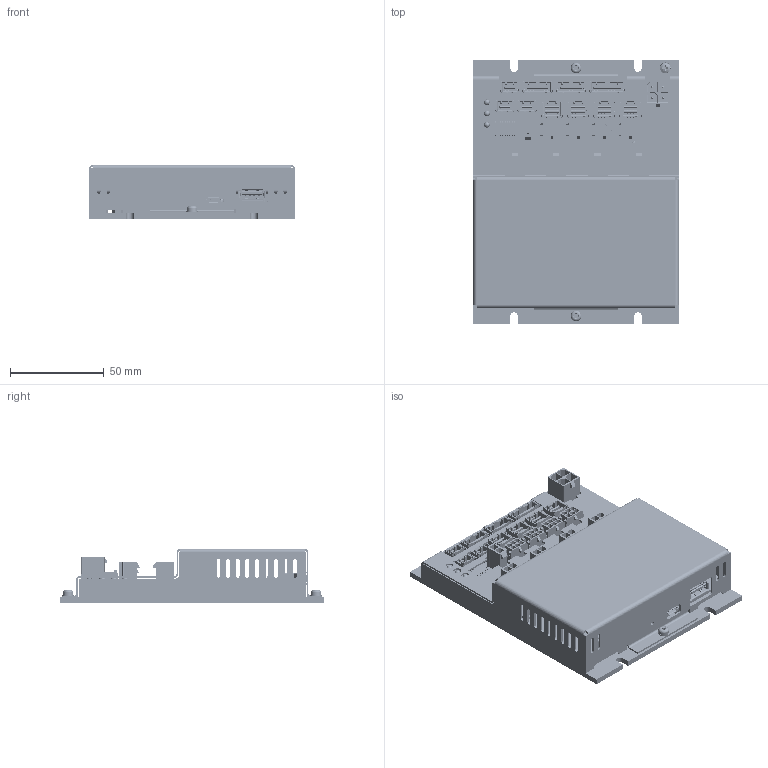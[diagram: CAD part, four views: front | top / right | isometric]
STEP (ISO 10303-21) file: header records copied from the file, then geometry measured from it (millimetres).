
FILE_DESCRIPTION(/* description */ (''),/* implementation_level */ '2;1');
FILE_NAME(/* name */ 'M:/Data_Disk/Products_Hw/_PRODUKTIONS_DATEN/zd000286_/zd000286_05/000/CAD_MiniMACS6-AMP-4-50-10_zd000286-000.step',/* time_stamp */ '2020-11-06T09:31:01+01:00',/* author */ (''),/* organization */ (''),/* preprocessor_version */ 'ST-DEVELOPER v18.1',/* originating_system */ 'Autodesk Translation Framework v9.3.0.1241',/* authorisation */ '');
FILE_SCHEMA (('AUTOMOTIVE_DESIGN { 1 0 10303 214 3 1 1 }'));
Products named in the file (150): Assemly_Standart_light; Kühlplatte; Silpad; MiniMAC6-AMP-4/50/10-IF1_Light; Board; Open CASCADE STEP translator 6.8 1.1; Open CASCADE STEP translator 6.8 1.1.1; X12; 87583-2010blf; T1; 6603623856; Extruded (13); SW1; TL3340AF160QG; 2000862_Housing; 2000862_Bracket; 2000862_Actuator; X10; X20; X30; X40; 460150402; Open CASCADE STEP translator 6.8 1.122.1; Open CASCADE STEP translator 6.8 1.122.1 (1); X11; X21; X31; X41; 430450612; Open CASCADE STEP translator 6.8 1.300.1; Open CASCADE STEP translator 6.8 1.300.1 (1); X3; X90; X91; MTMM-107-14-T-D-550; _MTMM-107-14-T-D-550_pins; _MTMM-107-14-T-D-550_body; X5; 768290104; Open CASCADE STEP translator 6.8 1.360.1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
Assembly tree (239 placements, depth 6):
  Assemly_Standart_light
    Kühlplatte
    Silpad
    MiniMAC6-AMP-4/50/10-IF1_Light
      Board
        Open CASCADE STEP translator 6.8 1.1
          Open CASCADE STEP translator 6.8 1.1.1
      X12
        87583-2010blf
      T1
        6603623856
          Extruded (13)
      SW1
        TL3340AF160QG
          2000862_Housing
          2000862_Bracket
          2000862_Actuator
      X10
        460150402
          Open CASCADE STEP translator 6.8 1.122.1
          Open CASCADE STEP translator 6.8 1.122.1 (1)
      X20
        460150402
          Open CASCADE STEP translator 6.8 1.122.1
          Open CASCADE STEP translator 6.8 1.122.1 (1)
      X30
        460150402
          Open CASCADE STEP translator 6.8 1.122.1
          Open CASCADE STEP translator 6.8 1.122.1 (1)
      X40
        460150402
          Open CASCADE STEP translator 6.8 1.122.1
          Open CASCADE STEP translator 6.8 1.122.1 (1)
      X11
        430450612
          Open CASCADE STEP translator 6.8 1.300.1
          Open CASCADE STEP translator 6.8 1.300.1 (1)
      X21
        430450612
          Open CASCADE STEP translator 6.8 1.300.1
          Open CASCADE STEP translator 6.8 1.300.1 (1)
      X31
        430450612
          Open CASCADE STEP translator 6.8 1.300.1
          Open CASCADE STEP translator 6.8 1.300.1 (1)
      X41
        430450612
          Open CASCADE STEP translator 6.8 1.300.1
          Open CASCADE STEP translator 6.8 1.300.1 (1)
      X3
        5025840470
          Open CASCADE STEP translator 6.8 1.319.1 (1)
          Open CASCADE STEP translator 6.8 1.319.1
      X90
        MTMM-107-14-T-D-550
          _MTMM-107-14-T-D-550_pins
          _MTMM-107-14-T-D-550_body
      X91
        MTMM-107-14-T-D-550
          _MTMM-107-14-T-D-550_pins
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Bounding box: 109.5 x 140.5 x 29.15 mm (x, y, z)
Volume: 116701.9 mm3; surface area: 151560.2 mm2
Topology: 274 solids, 280 shells, 15814 faces, 43126 edges, 27933 vertices
Faces by surface type: plane 12082, cylinder 3086, bspline 401, cone 153, sphere 60, torus 32
Full cylindrical faces by diameter (mm): 0.077 x4, 0.158 x4, 0.2 x8, 0.46 x2, 0.5 x7, 0.7 x10, 0.8 x29, 0.86 x8, 0.9 x3, 1 x38, 1.4 x19, 1.8 x9, 2 x2, 2.013 x8, 2.075 x6, 2.1 x1, 2.3 x2, 2.5 x21, 2.529 x3, 2.7 x19, 2.807 x1, 2.9 x1, 3 x3, 3.2 x2, 3.25 x3, 3.332 x2, 3.8 x3, 4.137 x2, 4.3 x3, 5 x4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
Entity records: 269633 total; most frequent: CARTESIAN_POINT 66417, ORIENTED_EDGE 42859, DIRECTION 39282, EDGE_CURVE 21430, LINE 17456, VECTOR 17456, VERTEX_POINT 13862, AXIS2_PLACEMENT_3D 10913
